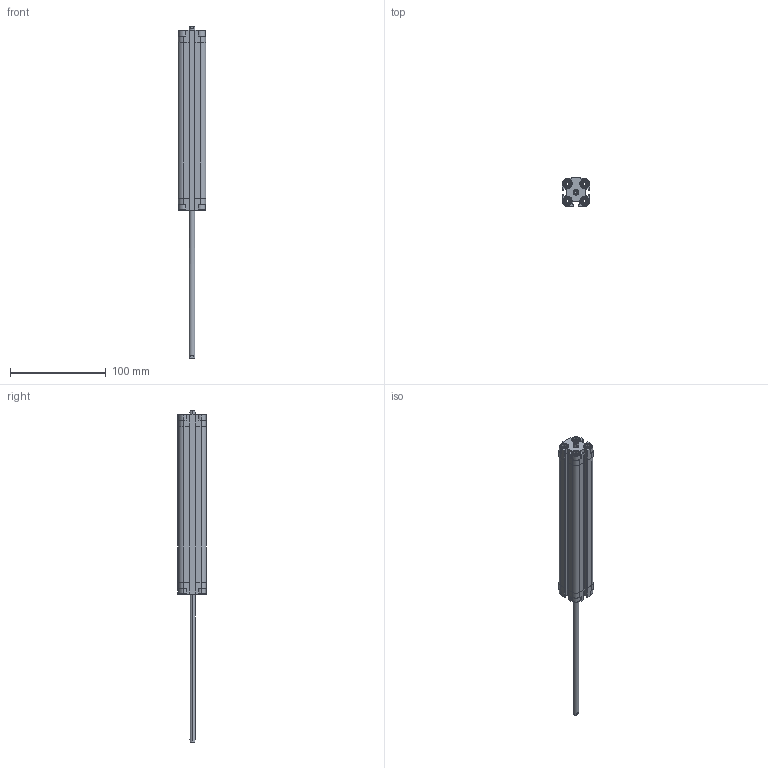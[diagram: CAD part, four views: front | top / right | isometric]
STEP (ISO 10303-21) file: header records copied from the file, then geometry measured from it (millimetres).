
FILE_DESCRIPTION (( 'STEP AP203' ), '1' );
FILE_NAME ('CDVU12-150F-P.STEP', '2020-07-24T18:03:11', ( '' ), ( '' ), 'SwSTEP 2.0', 'SolidWorks 2019', '' );
FILE_SCHEMA (( 'CONFIG_CONTROL_DESIGN' ));
Length unit declared in the file: millimetre
Products named in the file (1): CDVU12-150F-P
Bounding box: 29 x 30 x 347 mm (x, y, z)
Volume: 107988 mm3; surface area: 57371.2 mm2
Topology: 2 solids, 2 shells, 566 faces, 1508 edges, 980 vertices
Faces by surface type: plane 338, cylinder 164, cone 48, torus 16
Entity records: 17779 total; most frequent: CARTESIAN_POINT 3623, ORIENTED_EDGE 3000, DIRECTION 2850, EDGE_CURVE 1500, VERTEX_POINT 980, AXIS2_PLACEMENT_3D 975, LINE 900, VECTOR 900
